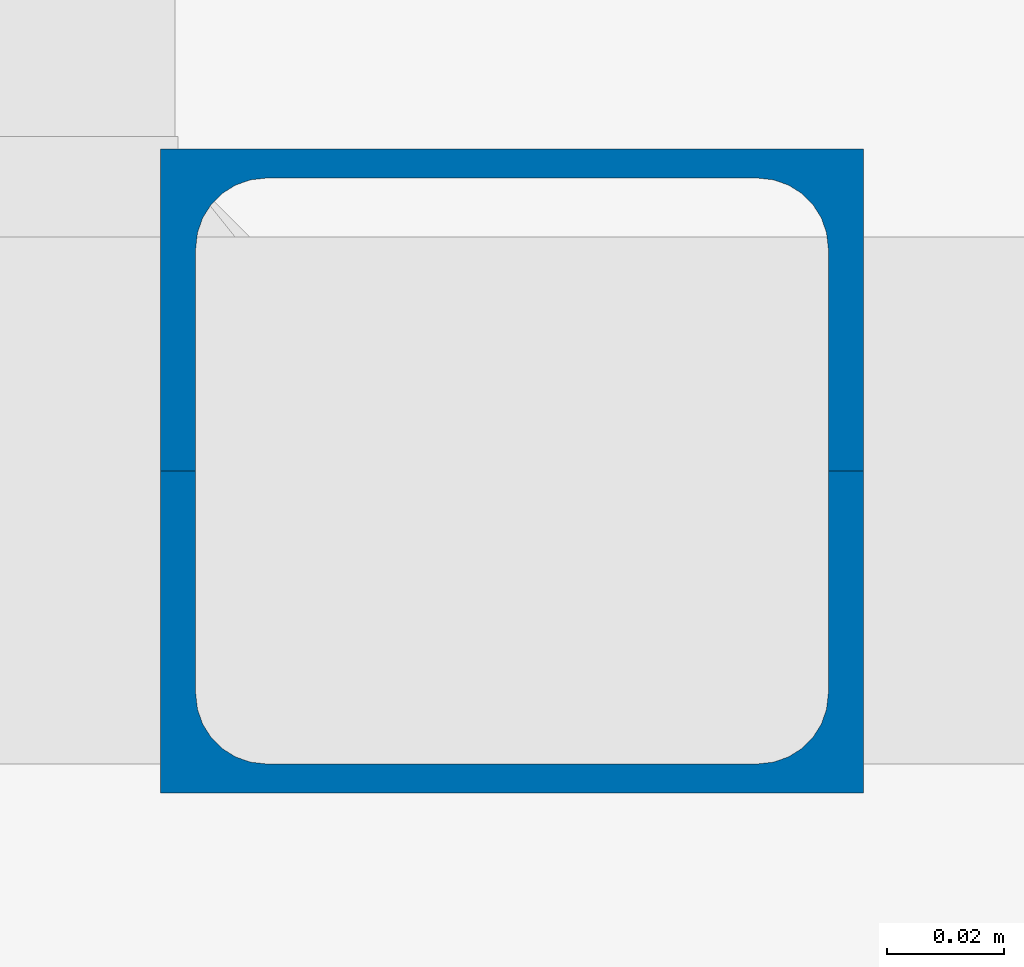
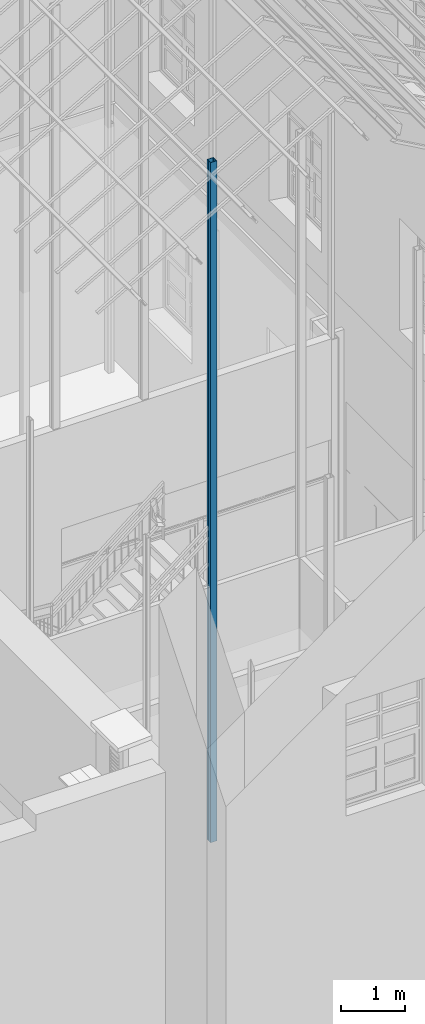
# One storey, part 2 of 75: 2 columns.
"""IFC2X3 building model written with IfcOpenShell, lengths in metres."""

from ifc_helpers import new_model, entity, si_unit, converted_unit, derived_unit, direction, frame, frame_2d, origin, place, context, subcontext, project, spatial, polyline, circle_curve, parameter, trimmed, segment, composite_curve, outline, extrude, source, transform, mapped, material, type_object, type_shapes, element, save


model = new_model("IFC2X3")

# Units and contexts
model_context = context("Model", 3, precision=1e-05, world=origin(), true_north=direction((6.12303176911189e-17, 1.0)))
body_context = subcontext(model_context, "Body", "Model", "MODEL_VIEW")
ifc_project = project(units=[si_unit("LENGTHUNIT", "METRE"), si_unit("AREAUNIT", "SQUARE_METRE"), si_unit("VOLUMEUNIT", "CUBIC_METRE"), converted_unit("PLANEANGLEUNIT", "DEGREE", entity("IfcRatioMeasure", 0.0174532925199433), si_unit("PLANEANGLEUNIT", "RADIAN"), dimensions=[0, 0, 0, 0, 0, 0, 0]), si_unit("MASSUNIT", "GRAM", prefix="KILO"), derived_unit("MASSDENSITYUNIT", [(si_unit("MASSUNIT", "GRAM", prefix="KILO"), 1), (si_unit("LENGTHUNIT", "METRE"), -3)]), derived_unit("MOMENTOFINERTIAUNIT", [(si_unit("LENGTHUNIT", "METRE"), 4)]), si_unit("TIMEUNIT", "SECOND"), si_unit("FREQUENCYUNIT", "HERTZ"), si_unit("THERMODYNAMICTEMPERATUREUNIT", "DEGREE_CELSIUS"), derived_unit("THERMALTRANSMITTANCEUNIT", [(si_unit("MASSUNIT", "GRAM", prefix="KILO"), 1), (si_unit("THERMODYNAMICTEMPERATUREUNIT", "KELVIN"), -1), (si_unit("TIMEUNIT", "SECOND"), -3)]), derived_unit("VOLUMETRICFLOWRATEUNIT", [(si_unit("LENGTHUNIT", "METRE"), 3), (si_unit("TIMEUNIT", "SECOND"), -1)]), si_unit("ELECTRICCURRENTUNIT", "AMPERE"), si_unit("ELECTRICVOLTAGEUNIT", "VOLT"), si_unit("POWERUNIT", "WATT"), si_unit("FORCEUNIT", "NEWTON", prefix="KILO"), si_unit("ILLUMINANCEUNIT", "LUX"), si_unit("LUMINOUSFLUXUNIT", "LUMEN"), si_unit("LUMINOUSINTENSITYUNIT", "CANDELA"), derived_unit("USERDEFINED", [(si_unit("MASSUNIT", "GRAM", prefix="KILO"), -1), (si_unit("LENGTHUNIT", "METRE"), -2), (si_unit("TIMEUNIT", "SECOND"), 3), (si_unit("LUMINOUSFLUXUNIT", "LUMEN"), 1)]), derived_unit("LINEARVELOCITYUNIT", [(si_unit("LENGTHUNIT", "METRE"), 1), (si_unit("TIMEUNIT", "SECOND"), -1)]), si_unit("PRESSUREUNIT", "PASCAL"), derived_unit("USERDEFINED", [(si_unit("LENGTHUNIT", "METRE"), -2), (si_unit("MASSUNIT", "GRAM", prefix="KILO"), 1), (si_unit("TIMEUNIT", "SECOND"), -2)]), derived_unit("LINEARFORCEUNIT", [(si_unit("MASSUNIT", "GRAM", prefix="KILO"), 1), (si_unit("LENGTHUNIT", "METRE"), 1), (si_unit("TIMEUNIT", "SECOND"), -2), (si_unit("LENGTHUNIT", "METRE"), -1)]), derived_unit("PLANARFORCEUNIT", [(si_unit("MASSUNIT", "GRAM", prefix="KILO"), 1), (si_unit("LENGTHUNIT", "METRE"), 1), (si_unit("TIMEUNIT", "SECOND"), -2), (si_unit("LENGTHUNIT", "METRE"), -2)])], contexts=[model_context])

# Site, building, storey
site_placement = place(None, origin())
site = spatial("IfcSite", under=ifc_project, at=site_placement, Name="Superficie", CompositionType="ELEMENT")
building_placement = place(site_placement, origin())
building = spatial("IfcBuilding", under=site, at=building_placement, Name="Telegestiones", CompositionType="ELEMENT")
storey_placement = place(building_placement, origin())
storey = spatial("IfcBuildingStorey", under=building, at=storey_placement, Name="Nivel 0_NPT", CompositionType="ELEMENT", Elevation=0.0)

# Columns
ifc_material = material(Name="Metal - Acero - 345 MPa")
column_type_1 = type_object("IfcColumnType", Name="UPE - Canales de ala paralela - Pilar:UPE 120", PredefinedType="COLUMN", material=ifc_material)
shared_shape_1 = source(origin(), body_context, "Body", "SweptSolid", [
    extrude(outline(composite_curve([segment(polyline([(-0.0599999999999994, -0.0264), (0.0600000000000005, -0.0264)]), True, "CONTINUOUS"), segment(polyline([(0.0600000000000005, -0.0264), (0.0600000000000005, 0.0286)]), True, "CONTINUOUS"), segment(polyline([(0.0600000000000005, 0.0286), (0.0539999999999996, 0.0286)]), True, "CONTINUOUS"), segment(polyline([(0.0539999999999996, 0.0286), (0.0539999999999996, -0.00939999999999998)]), True, "CONTINUOUS"), segment(trimmed(circle_curve(frame_2d((0.0419999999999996, -0.0094), x_axis=(1.0, 0.0)), 0.012), [parameter(270.0)], [parameter(0.0)], True, "PARAMETER"), False, "CONTINUOUS"), segment(polyline([(0.0419999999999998, -0.0214), (-0.0420000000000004, -0.0214)]), True, "CONTINUOUS"), segment(trimmed(circle_curve(frame_2d((-0.0420000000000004, -0.00940000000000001), x_axis=(0.0, -1.0)), 0.012), [parameter(270.0)], [parameter(0.0)], True, "PARAMETER"), False, "CONTINUOUS"), segment(polyline([(-0.0540000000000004, -0.0094), (-0.0540000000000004, 0.0286)]), True, "CONTINUOUS"), segment(polyline([(-0.0540000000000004, 0.0286), (-0.0599999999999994, 0.0286)]), True, "CONTINUOUS"), segment(polyline([(-0.0599999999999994, 0.0286), (-0.0599999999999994, -0.0264)]), True, "CONTINUOUS")], self_intersect=False)), frame((0.00660000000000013, 0.0, 0.0), z_axis=(0.0, 0.0, 1.0), x_axis=(0.0, -1.0, 0.0)), (0.0, 0.0, 1.0), 13.07),
])
type_shapes(column_type_1, [shared_shape_1])
column_1_placement = place(storey_placement, frame((9.65981262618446, 1.4544072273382, 0.0), z_axis=(0.0, 0.0, 1.0), x_axis=(0.0, 1.0, 0.0)))
element("IfcColumn", 1, at=column_1_placement, inside=storey, type_object=column_type_1, Name="UPE - Canales de ala paralela - Pilar:UPE 120", ObjectType="UPE - Canales de ala paralela - Pilar:UPE 120", context=body_context, shape_type="MappedRepresentation", body=[
    mapped(shared_shape_1, transform((0.0, 0.0, 0.0), scale=1.0)),
])
column_type_2 = type_object("IfcColumnType", Name="UPE - Canales de ala paralela - Pilar:UPE 120", PredefinedType="COLUMN", material=ifc_material)
shared_shape_2 = source(origin(), body_context, "Body", "SweptSolid", [
    extrude(outline(composite_curve([segment(polyline([(-0.0600000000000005, -0.0264), (0.0599999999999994, -0.0264)]), True, "CONTINUOUS"), segment(polyline([(0.0599999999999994, -0.0264), (0.0599999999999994, 0.0286)]), True, "CONTINUOUS"), segment(polyline([(0.0599999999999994, 0.0286), (0.0540000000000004, 0.0286)]), True, "CONTINUOUS"), segment(polyline([(0.0540000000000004, 0.0286), (0.0540000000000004, -0.00939999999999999)]), True, "CONTINUOUS"), segment(trimmed(circle_curve(frame_2d((0.0420000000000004, -0.00939999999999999), x_axis=(1.0, 0.0)), 0.012), [parameter(270.0)], [parameter(0.0)], True, "PARAMETER"), False, "CONTINUOUS"), segment(polyline([(0.0420000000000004, -0.0214), (-0.0419999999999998, -0.0214)]), True, "CONTINUOUS"), segment(trimmed(circle_curve(frame_2d((-0.0419999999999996, -0.00939999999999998), x_axis=(0.0, -1.0)), 0.012), [parameter(270.0)], [parameter(0.0)], True, "PARAMETER"), False, "CONTINUOUS"), segment(polyline([(-0.0539999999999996, -0.00939999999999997), (-0.0539999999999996, 0.0286)]), True, "CONTINUOUS"), segment(polyline([(-0.0539999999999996, 0.0286), (-0.0600000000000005, 0.0286)]), True, "CONTINUOUS"), segment(polyline([(-0.0600000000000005, 0.0286), (-0.0600000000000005, -0.0264)]), True, "CONTINUOUS")], self_intersect=False)), frame((0.00660000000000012, 0.0, 0.0), z_axis=(0.0, 0.0, 1.0), x_axis=(0.0, -1.0, 0.0)), (0.0, 0.0, 1.0), 13.07),
])
type_shapes(column_type_2, [shared_shape_2])
column_2_placement = place(storey_placement, frame((9.65981262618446, 1.5248072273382, 0.0), z_axis=(0.0, 0.0, 1.0), x_axis=(0.0, -1.0, 0.0)))
element("IfcColumn", 2, at=column_2_placement, inside=storey, type_object=column_type_2, Name="UPE - Canales de ala paralela - Pilar:UPE 120", ObjectType="UPE - Canales de ala paralela - Pilar:UPE 120", context=body_context, shape_type="MappedRepresentation", body=[
    mapped(shared_shape_2, transform((0.0, 0.0, 0.0), scale=1.0)),
])

save(model, "model.ifc")
